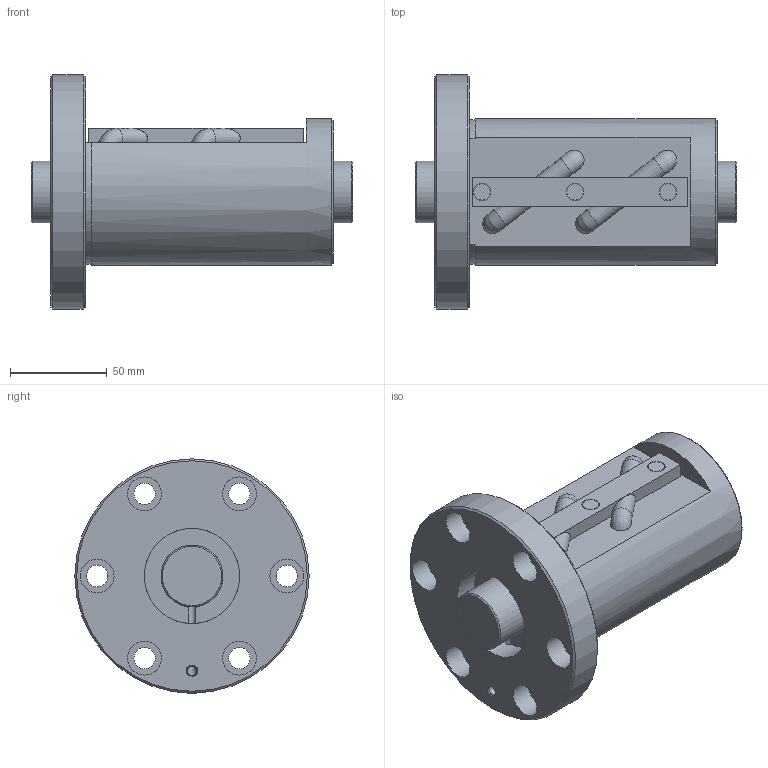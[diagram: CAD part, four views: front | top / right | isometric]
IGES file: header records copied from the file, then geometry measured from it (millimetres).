
Start section: Data from Parasolid IGES Translator 26.0.171, Copyright(c) 2006 Siemens PLM Software. All Rights Reserved.
Global section: file name: BIF3212V-7RRG0+166LC0_000.igs; native system: By Siemens PLM Incorporated; preprocessor: XPlus GENERIC/IGES 26.0.171; author: Noname; organization: Noname; date: 20240715.082328; units: millimetre
Bounding box: 166 x 121 x 121 mm (x, y, z)
Surface area: 100212.4 mm2 (no closed solid volume)
Topology: 0 solids, 0 shells, 93 faces, 434 edges, 388 vertices
Faces by surface type: revolution 50, extrusion 43
